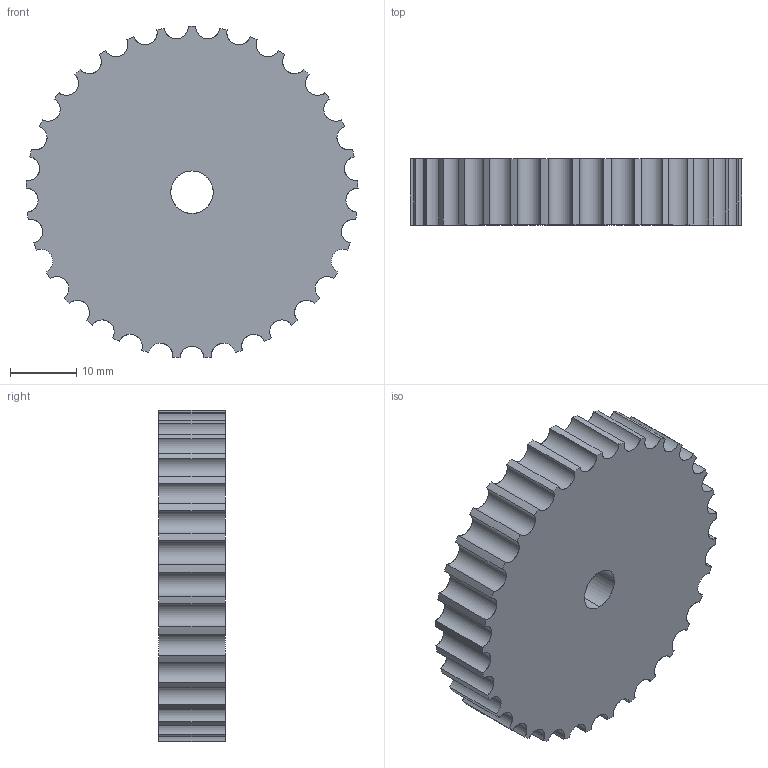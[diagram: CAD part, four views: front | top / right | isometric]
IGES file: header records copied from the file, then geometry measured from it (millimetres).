
Start section: SolidWorks IGES file using analytic representation for surfaces
Global section: file name: C:\Users\Dima\Documents\Fab Lab\Fab Academy 2016\CAD\my_pulley.IGS; native system: SolidWorks 2016; preprocessor: SolidWorks 2016; author: Dima; date: 160531.174101; units: millimetre
Bounding box: 49.99 x 10 x 49.93 mm (x, y, z)
Surface area: 5938.8 mm2 (no closed solid volume)
Topology: 0 solids, 0 shells, 87 faces, 1470 edges, 1470 vertices
Faces by surface type: revolution 85, bspline 2
